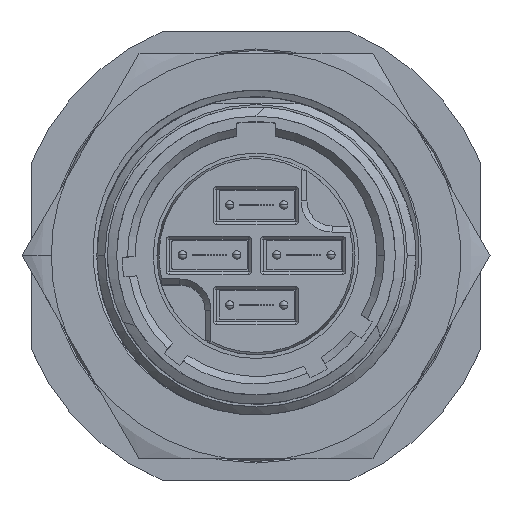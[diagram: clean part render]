
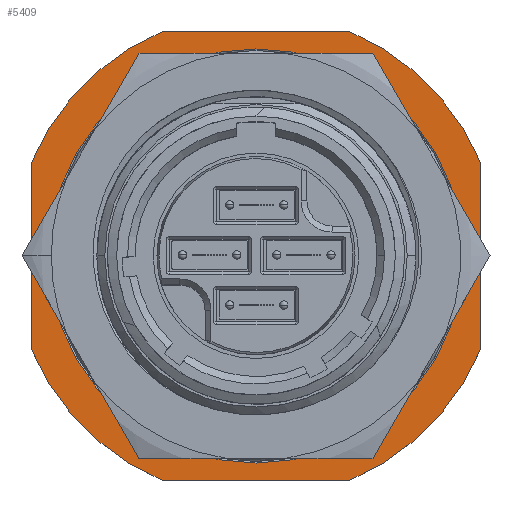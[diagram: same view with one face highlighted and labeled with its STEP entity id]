
A CAD part, top view. The second image highlights one B-rep face of the part: STEP entity #5409.
In plain terms, the highlighted planar face has unit normal (0, 0, 1).
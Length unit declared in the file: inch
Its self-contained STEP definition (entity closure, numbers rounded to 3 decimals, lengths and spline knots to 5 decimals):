
#300 = AXIS2_PLACEMENT_3D ( 'NONE', #27863, #8058, #3378 ) ;
#966 = DIRECTION ( 'NONE',  ( -1., 0., 0. ) ) ;
#969 = CIRCLE ( 'NONE', #23076, 0.813 ) ;
#1795 = CARTESIAN_POINT ( 'NONE',  ( 0.75, 0.3138, -0.915 ) ) ;
#3378 = DIRECTION ( 'NONE',  ( -1., 0., 0. ) ) ;
#3948 = AXIS2_PLACEMENT_3D ( 'NONE', #17319, #27143, #5090 ) ;
#4100 = CIRCLE ( 'NONE', #27234, 0.813 ) ;
#4758 = CARTESIAN_POINT ( 'NONE',  ( -0.3138, -0.75, -0.915 ) ) ;
#4957 = AXIS2_PLACEMENT_3D ( 'NONE', #5807, #22710, #966 ) ;
#5090 = DIRECTION ( 'NONE',  ( -1., 0., 0. ) ) ;
#5191 = VERTEX_POINT ( 'NONE', #1795 ) ;
#5409 = ADVANCED_FACE ( 'NONE', ( #10147, #17882 ), #29619, .F. ) ;
#5476 = EDGE_CURVE ( 'NONE', #17960, #15408, #22949, .T. ) ;
#5624 = CARTESIAN_POINT ( 'NONE',  ( 0., 0., -0.915 ) ) ;
#5807 = CARTESIAN_POINT ( 'NONE',  ( 0., 0., -0.915 ) ) ;
#6078 = LINE ( 'NONE', #15423, #9680 ) ;
#7211 = DIRECTION ( 'NONE',  ( 1., 0., 0. ) ) ;
#7306 = EDGE_CURVE ( 'NONE', #5191, #17960, #6078, .T. ) ;
#7978 = CARTESIAN_POINT ( 'NONE',  ( 0.3138, 0.75, -0.915 ) ) ;
#8058 = DIRECTION ( 'NONE',  ( 0., 0., -1. ) ) ;
#8930 = EDGE_CURVE ( 'NONE', #15408, #13724, #13242, .T. ) ;
#9255 = CARTESIAN_POINT ( 'NONE',  ( 0.3138, -0.75, -0.915 ) ) ;
#9680 = VECTOR ( 'NONE', #30384, 39.37008 ) ;
#10147 = FACE_BOUND ( 'NONE', #27969, .T. ) ;
#10620 = VERTEX_POINT ( 'NONE', #20446 ) ;
#10964 = LINE ( 'NONE', #26101, #23693 ) ;
#11252 = CARTESIAN_POINT ( 'NONE',  ( -0.6922, 0., -0.915 ) ) ;
#11380 = ORIENTED_EDGE ( 'NONE', *, *, #7306, .F. ) ;
#12474 = ORIENTED_EDGE ( 'NONE', *, *, #12879, .F. ) ;
#12733 = DIRECTION ( 'NONE',  ( -1., 0., 0. ) ) ;
#12879 = EDGE_CURVE ( 'NONE', #27881, #17773, #10964, .T. ) ;
#13242 = LINE ( 'NONE', #17755, #22957 ) ;
#13614 = CARTESIAN_POINT ( 'NONE',  ( 0.75, -0.3138, -0.915 ) ) ;
#13724 = VERTEX_POINT ( 'NONE', #4758 ) ;
#13811 = VECTOR ( 'NONE', #7211, 39.37008 ) ;
#14009 = ORIENTED_EDGE ( 'NONE', *, *, #29793, .F. ) ;
#14612 = CARTESIAN_POINT ( 'NONE',  ( -0.75, 0.3138, -0.915 ) ) ;
#14970 = ORIENTED_EDGE ( 'NONE', *, *, #17062, .F. ) ;
#15408 = VERTEX_POINT ( 'NONE', #9255 ) ;
#15423 = CARTESIAN_POINT ( 'NONE',  ( 0.75, 0.3138, -0.915 ) ) ;
#15622 = CARTESIAN_POINT ( 'NONE',  ( 0., 0., -0.915 ) ) ;
#15758 = CIRCLE ( 'NONE', #3948, 0.6922 ) ;
#16221 = DIRECTION ( 'NONE',  ( 0., 0., -1. ) ) ;
#17062 = EDGE_CURVE ( 'NONE', #17773, #10620, #30842, .T. ) ;
#17253 = ORIENTED_EDGE ( 'NONE', *, *, #29886, .T. ) ;
#17319 = CARTESIAN_POINT ( 'NONE',  ( 0., 0., -0.915 ) ) ;
#17755 = CARTESIAN_POINT ( 'NONE',  ( 0.3138, -0.75, -0.915 ) ) ;
#17773 = VERTEX_POINT ( 'NONE', #14612 ) ;
#17882 = FACE_OUTER_BOUND ( 'NONE', #26544, .T. ) ;
#17960 = VERTEX_POINT ( 'NONE', #13614 ) ;
#18531 = AXIS2_PLACEMENT_3D ( 'NONE', #15622, #20149, #12733 ) ;
#20081 = VERTEX_POINT ( 'NONE', #7978 ) ;
#20149 = DIRECTION ( 'NONE',  ( 0., 0., -1. ) ) ;
#20154 = EDGE_CURVE ( 'NONE', #21818, #26662, #15758, .T. ) ;
#20446 = CARTESIAN_POINT ( 'NONE',  ( -0.3138, 0.75, -0.915 ) ) ;
#20613 = ORIENTED_EDGE ( 'NONE', *, *, #28917, .F. ) ;
#20785 = DIRECTION ( 'NONE',  ( 0., 1., 0. ) ) ;
#20806 = DIRECTION ( 'NONE',  ( -1., 0., 0. ) ) ;
#21818 = VERTEX_POINT ( 'NONE', #25522 ) ;
#22172 = LINE ( 'NONE', #24900, #13811 ) ;
#22710 = DIRECTION ( 'NONE',  ( 0., 0., -1. ) ) ;
#22949 = CIRCLE ( 'NONE', #4957, 0.813 ) ;
#22957 = VECTOR ( 'NONE', #20806, 39.37008 ) ;
#23076 = AXIS2_PLACEMENT_3D ( 'NONE', #28671, #31074, #31701 ) ;
#23201 = ORIENTED_EDGE ( 'NONE', *, *, #30171, .F. ) ;
#23475 = DIRECTION ( 'NONE',  ( 0., 0., -1. ) ) ;
#23693 = VECTOR ( 'NONE', #20785, 39.37008 ) ;
#24467 = ORIENTED_EDGE ( 'NONE', *, *, #8930, .F. ) ;
#24900 = CARTESIAN_POINT ( 'NONE',  ( 0.3138, 0.75, -0.915 ) ) ;
#25522 = CARTESIAN_POINT ( 'NONE',  ( 0.6922, 0., -0.915 ) ) ;
#26101 = CARTESIAN_POINT ( 'NONE',  ( -0.75, 0.3138, -0.915 ) ) ;
#26527 = DIRECTION ( 'NONE',  ( -1., 0., 0. ) ) ;
#26544 = EDGE_LOOP ( 'NONE', ( #14970, #12474, #20613, #24467, #26815, #11380, #14009, #23201 ) ) ;
#26662 = VERTEX_POINT ( 'NONE', #11252 ) ;
#26815 = ORIENTED_EDGE ( 'NONE', *, *, #5476, .F. ) ;
#27143 = DIRECTION ( 'NONE',  ( 0., 0., -1. ) ) ;
#27234 = AXIS2_PLACEMENT_3D ( 'NONE', #5624, #23475, #30070 ) ;
#27863 = CARTESIAN_POINT ( 'NONE',  ( 0., 0., -0.915 ) ) ;
#27881 = VERTEX_POINT ( 'NONE', #31593 ) ;
#27969 = EDGE_LOOP ( 'NONE', ( #17253, #31475 ) ) ;
#28254 = AXIS2_PLACEMENT_3D ( 'NONE', #30879, #16221, #26527 ) ;
#28671 = CARTESIAN_POINT ( 'NONE',  ( 0., 0., -0.915 ) ) ;
#28917 = EDGE_CURVE ( 'NONE', #13724, #27881, #969, .T. ) ;
#29619 = PLANE ( 'NONE',  #300 ) ;
#29793 = EDGE_CURVE ( 'NONE', #20081, #5191, #4100, .T. ) ;
#29886 = EDGE_CURVE ( 'NONE', #26662, #21818, #30815, .T. ) ;
#30070 = DIRECTION ( 'NONE',  ( -1., 0., 0. ) ) ;
#30171 = EDGE_CURVE ( 'NONE', #10620, #20081, #22172, .T. ) ;
#30384 = DIRECTION ( 'NONE',  ( 0., -1., 0. ) ) ;
#30815 = CIRCLE ( 'NONE', #28254, 0.6922 ) ;
#30842 = CIRCLE ( 'NONE', #18531, 0.813 ) ;
#30879 = CARTESIAN_POINT ( 'NONE',  ( 0., 0., -0.915 ) ) ;
#31074 = DIRECTION ( 'NONE',  ( 0., 0., -1. ) ) ;
#31475 = ORIENTED_EDGE ( 'NONE', *, *, #20154, .T. ) ;
#31593 = CARTESIAN_POINT ( 'NONE',  ( -0.75, -0.3138, -0.915 ) ) ;
#31701 = DIRECTION ( 'NONE',  ( -1., 0., 0. ) ) ;
